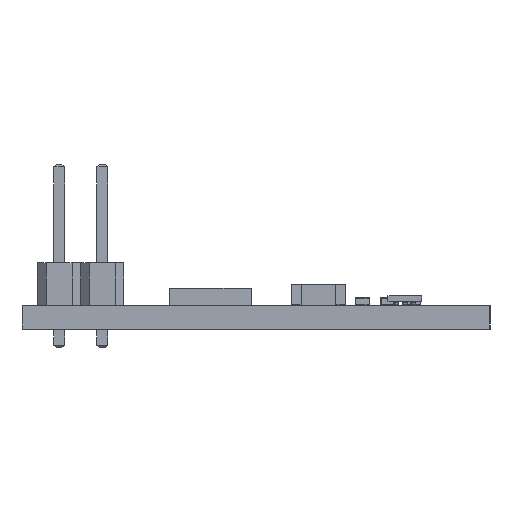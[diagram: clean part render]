
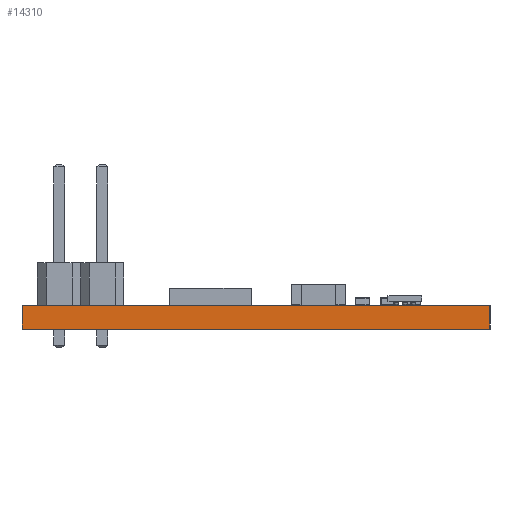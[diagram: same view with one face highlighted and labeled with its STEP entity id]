
A CAD part, left-side view. The second image highlights one B-rep face of the part: STEP entity #14310.
In plain terms, the highlighted planar face has unit normal (-1, 0, 0).
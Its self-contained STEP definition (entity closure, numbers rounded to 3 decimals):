
#1094=PLANE('',#15459);
#1804=FACE_OUTER_BOUND('',#2670,.T.);
#2670=EDGE_LOOP('',(#10325,#10326,#10327,#10328));
#3660=LINE('',#20949,#5204);
#3661=LINE('',#20952,#5205);
#3662=LINE('',#20954,#5206);
#3663=LINE('',#20955,#5207);
#5204=VECTOR('',#16850,10.);
#5205=VECTOR('',#16853,10.);
#5206=VECTOR('',#16854,10.);
#5207=VECTOR('',#16855,10.);
#7150=VERTEX_POINT('',#20943);
#7152=VERTEX_POINT('',#20947);
#7153=VERTEX_POINT('',#20951);
#7154=VERTEX_POINT('',#20953);
#8340=EDGE_CURVE('',#7150,#7152,#3660,.T.);
#8341=EDGE_CURVE('',#7150,#7153,#3661,.T.);
#8342=EDGE_CURVE('',#7154,#7152,#3662,.T.);
#8343=EDGE_CURVE('',#7153,#7154,#3663,.T.);
#10325=ORIENTED_EDGE('',*,*,#8341,.F.);
#10326=ORIENTED_EDGE('',*,*,#8340,.T.);
#10327=ORIENTED_EDGE('',*,*,#8342,.F.);
#10328=ORIENTED_EDGE('',*,*,#8343,.F.);
#14310=ADVANCED_FACE('',(#1804),#1094,.T.);
#15459=AXIS2_PLACEMENT_3D('',#20950,#16851,#16852);
#16850=DIRECTION('',(0.,0.,1.));
#16851=DIRECTION('center_axis',(-1.,0.,0.));
#16852=DIRECTION('ref_axis',(0.,-1.,0.));
#16853=DIRECTION('',(0.,1.,0.));
#16854=DIRECTION('',(0.,-1.,0.));
#16855=DIRECTION('',(0.,0.,1.));
#20943=CARTESIAN_POINT('',(-16.25,-5.,0.));
#20947=CARTESIAN_POINT('',(-16.25,-5.,1.4));
#20949=CARTESIAN_POINT('',(-16.25,-5.,0.));
#20950=CARTESIAN_POINT('Origin',(-16.25,22.5,0.));
#20951=CARTESIAN_POINT('',(-16.25,22.5,0.));
#20952=CARTESIAN_POINT('',(-16.25,-5.,0.));
#20953=CARTESIAN_POINT('',(-16.25,22.5,1.4));
#20954=CARTESIAN_POINT('',(-16.25,-5.,1.4));
#20955=CARTESIAN_POINT('',(-16.25,22.5,0.));
